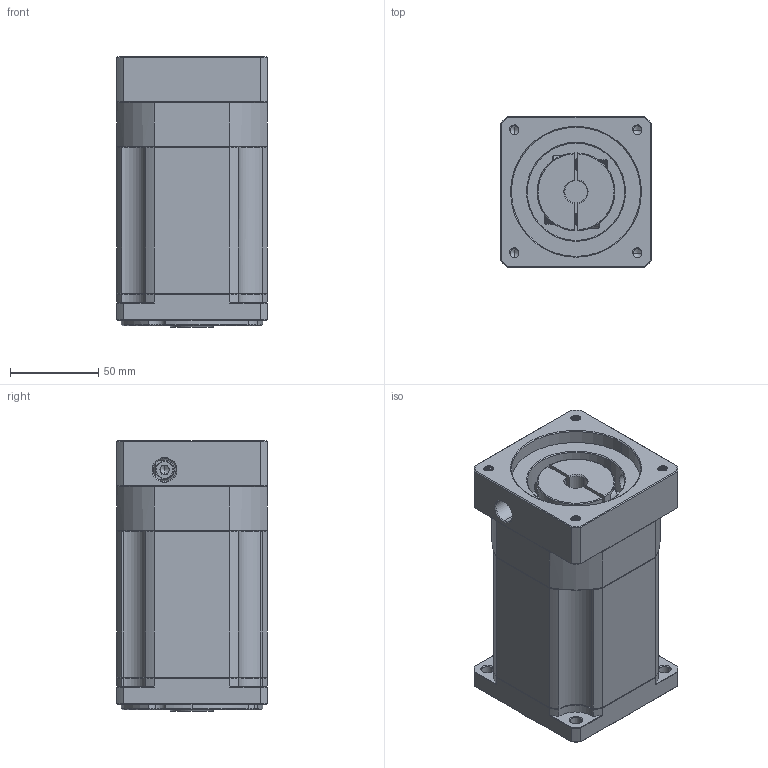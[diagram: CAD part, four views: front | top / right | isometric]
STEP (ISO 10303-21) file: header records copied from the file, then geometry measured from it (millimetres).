
FILE_DESCRIPTION (( 'STEP AP214' ), '1' );
FILE_NAME ('ZB90-K15-L3-12.7-73-69.5X69.5-M6.STEP', '2022-05-02T15:30:36', ( '' ), ( 'Microsoft' ), 'SwSTEP 2.0', 'SolidWorks 2016', '' );
FILE_SCHEMA (( 'AUTOMOTIVE_DESIGN' ));
Length unit declared in the file: millimetre
Products named in the file (1): ZB90-K15-L3-12.7-73-69.5X69.5-M6
Bounding box: 85 x 85 x 153 mm (x, y, z)
Volume: 895391.4 mm3; surface area: 99914.7 mm2
Topology: 4 solids, 5 shells, 1879 faces, 4911 edges, 3111 vertices
Faces by surface type: plane 875, cylinder 358, cone 329, bspline 292, torus 25
Entity records: 98884 total; most frequent: CARTESIAN_POINT 34486, ORIENTED_EDGE 9782, DIRECTION 7996, EDGE_CURVE 4891, VERTEX_POINT 3111, VECTOR 3046, LINE 3046, AXIS2_PLACEMENT_3D 2475
